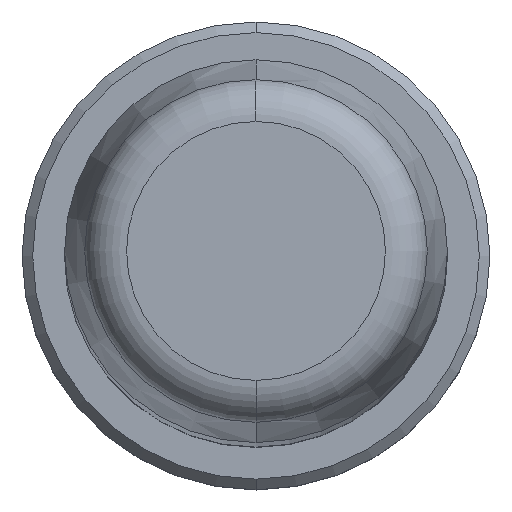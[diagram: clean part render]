
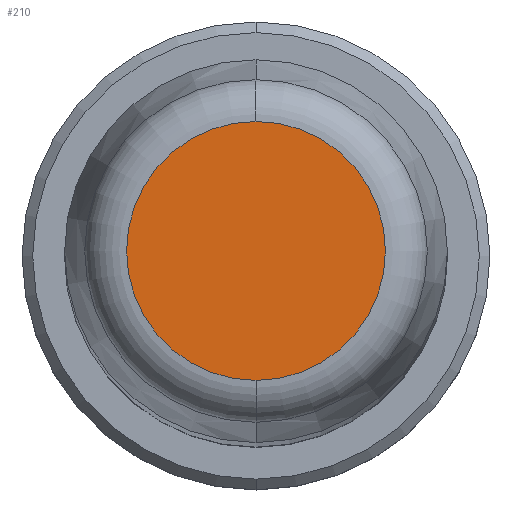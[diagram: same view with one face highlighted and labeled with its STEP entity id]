
A CAD part, top view. The second image highlights one B-rep face of the part: STEP entity #210.
In plain terms, the highlighted planar face has unit normal (0, 0, 1).
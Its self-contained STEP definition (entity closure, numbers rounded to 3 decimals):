
#1=CARTESIAN_POINT('',(0.,0.,140.));
#2=DIRECTION('',(0.,0.,-1.));
#3=DIRECTION('',(0.,-1.,0.));
#4=AXIS2_PLACEMENT_3D('',#1,#2,#3);
#6=CARTESIAN_POINT('',(0.,0.,140.));
#7=DIRECTION('',(0.,0.,-1.));
#8=DIRECTION('',(0.,1.,0.));
#9=AXIS2_PLACEMENT_3D('',#6,#7,#8);
#183=CARTESIAN_POINT('',(0.,-6.088,140.));
#184=CARTESIAN_POINT('',(0.,6.088,140.));
#185=VERTEX_POINT('',#183);
#186=VERTEX_POINT('',#184);
#199=CARTESIAN_POINT('',(0.,0.,140.));
#200=DIRECTION('',(0.,0.,1.));
#201=DIRECTION('',(0.,-1.,0.));
#202=AXIS2_PLACEMENT_3D('',#199,#200,#201);
#203=PLANE('',#202);
#205=ORIENTED_EDGE('',*,*,#204,.T.);
#207=ORIENTED_EDGE('',*,*,#206,.T.);
#208=EDGE_LOOP('',(#205,#207));
#209=FACE_OUTER_BOUND('',#208,.F.);
#210=ADVANCED_FACE('',(#209),#203,.T.);
#5=CIRCLE('',#4,6.088);
#10=CIRCLE('',#9,6.088);
#204=EDGE_CURVE('',#185,#186,#5,.T.);
#206=EDGE_CURVE('',#186,#185,#10,.T.);
